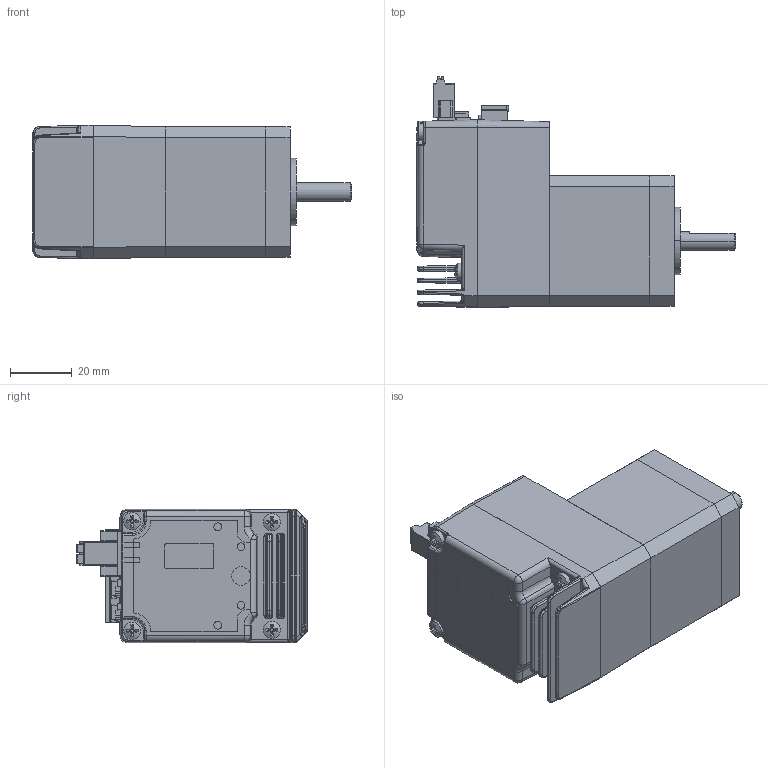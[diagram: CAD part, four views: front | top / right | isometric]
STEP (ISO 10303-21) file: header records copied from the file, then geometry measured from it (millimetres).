
FILE_DESCRIPTION (( 'STEP AP214' ), '1' );
FILE_NAME ('TSM17-3RGµç»ú.STEP', '2021-07-15T05:54:35', ( 'Windows User' ), ( 'P R C' ), 'SwSTEP 2.0', 'SolidWorks 2015', '' );
FILE_SCHEMA (( 'AUTOMOTIVE_DESIGN' ));
Length unit declared in the file: millimetre
Products named in the file (17): 13; 3; 7; 8; 14; 5; 12; 15; 4; 11; TSM17-3RG萇儂; 1; 2; 10; 16; 6; 9
Assembly tree (20 placements, depth 3):
  TSM17-3RG萇儂
    11
      13
      12
      15
      14
    10
    5
    3
    9
    8
    2  x2
    6  x2
    7  x2
    16  x2
    4
    1
Bounding box: 103.75 x 75.1 x 43.53 mm (x, y, z)
Volume: 113631.3 mm3; surface area: 66796.6 mm2
Topology: 19 solids, 29 shells, 2814 faces, 7281 edges, 4677 vertices
Faces by surface type: plane 1881, cylinder 591, bspline 183, torus 88, cone 52, sphere 19
Entity records: 103184 total; most frequent: CARTESIAN_POINT 19269, ORIENTED_EDGE 13596, DIRECTION 12816, EDGE_CURVE 6800, VECTOR 5094, LINE 5094, VERTEX_POINT 4391, AXIS2_PLACEMENT_3D 3861
